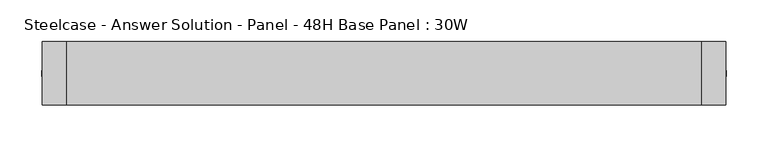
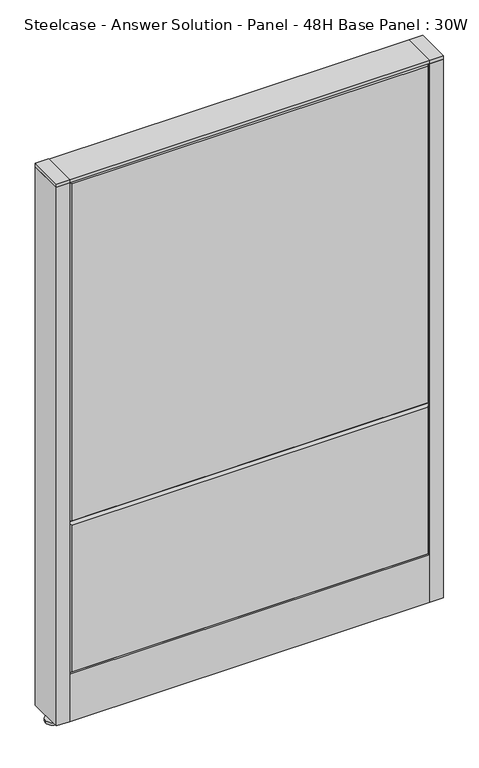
"""IFC4 building model written with IfcOpenShell, lengths in millimetres: furniture geometry, Steelcase - Answer Solution - Panel - 48H Base Panel : 30W."""

from ifc_helpers import new_model, si_unit, point, frame, frame_2d, origin, place, context, project, spatial, polyline, circle_curve, trimmed, segment, composite_curve, outline, extrude, faceted_brep, source, transform, mapped, element, save


def steelcase_answer_solution_panel_48h_base_panel_30w_569df7b0(model_context):
    return source(origin(), model_context, "Body", "SolidModel", [
        extrude(outline(composite_curve([segment(trimmed(circle_curve(frame_2d((395.224, 0.0320214)), 5.08), [point((400.304, 0.0320214))], [point((390.144, 0.0320214))], False, "CARTESIAN"), True, "CONTINUOUS"), segment(trimmed(circle_curve(frame_2d((395.224, 0.0320214)), 5.08), [point((390.144, 0.0320214))], [point((400.304, 0.0320214))], False, "CARTESIAN"), True, "CONTINUOUS")], self_intersect=False)), frame((0.0, 0.0, 5.0799671), z_axis=(0.0, 0.0, 1.0), x_axis=(1.0, 0.0, 0.0)), (0.0, 0.0, 1.0), 10.414),
        extrude(outline(composite_curve([segment(trimmed(circle_curve(frame_2d((395.224, 0.0320214)), 15.24), [point((410.464, 0.0320214))], [point((379.984, 0.0320214))], False, "CARTESIAN"), True, "CONTINUOUS"), segment(trimmed(circle_curve(frame_2d((395.224, 0.0320214)), 15.24), [point((379.984, 0.0320214))], [point((410.464, 0.0320214))], False, "CARTESIAN"), True, "CONTINUOUS")], self_intersect=False)), frame((0.0, 0.0, -3.29e-05), z_axis=(0.0, 0.0, 1.0), x_axis=(1.0, 0.0, 0.0)), (0.0, 0.0, 1.0), 5.08),
        extrude(outline(polyline([(409.575, 38.1320408), (409.575, -38.0679592), (381.0, -38.0679592), (381.0, 38.1320408), (409.575, 38.1320408)])), frame((0.0, 0.0, 1218.2348), z_axis=(0.0, 0.0, 1.0), x_axis=(1.0, 0.0, 0.0)), (0.0, 0.0, 1.0), 7.3151671),
        extrude(outline(polyline([(409.575, 38.1320408), (409.575, -38.0679592), (381.0, -38.0679592), (381.0, 38.1320408), (409.575, 38.1320408)])), frame((0.0, 0.0, 15.4939671), z_axis=(0.0, 0.0, 1.0), x_axis=(1.0, 0.0, 0.0)), (0.0, 0.0, 1.0), 1202.7408329),
        extrude(outline(composite_curve([segment(trimmed(circle_curve(frame_2d((-395.224, 0.0320214)), 5.08), [point((-400.304, 0.0320214))], [point((-390.144, 0.0320214))], False, "CARTESIAN"), True, "CONTINUOUS"), segment(trimmed(circle_curve(frame_2d((-395.224, 0.0320214)), 5.08), [point((-390.144, 0.0320214))], [point((-400.304, 0.0320214))], False, "CARTESIAN"), True, "CONTINUOUS")], self_intersect=False)), frame((0.0, 0.0, 5.0799671), z_axis=(0.0, 0.0, 1.0), x_axis=(1.0, 0.0, 0.0)), (0.0, 0.0, 1.0), 10.414),
        extrude(outline(composite_curve([segment(trimmed(circle_curve(frame_2d((-395.224, 0.0320214)), 15.24), [point((-410.464, 0.0320214))], [point((-379.984, 0.0320214))], False, "CARTESIAN"), True, "CONTINUOUS"), segment(trimmed(circle_curve(frame_2d((-395.224, 0.0320214)), 15.24), [point((-379.984, 0.0320214))], [point((-410.464, 0.0320214))], False, "CARTESIAN"), True, "CONTINUOUS")], self_intersect=False)), frame((0.0, 0.0, -3.29e-05), z_axis=(0.0, 0.0, 1.0), x_axis=(1.0, 0.0, 0.0)), (0.0, 0.0, 1.0), 5.08),
        extrude(outline(polyline([(-409.575, 38.1320408), (-381.0, 38.1320408), (-381.0, -38.0679592), (-409.575, -38.0679592), (-409.575, 38.1320408)])), frame((0.0, 0.0, 1218.2348), z_axis=(0.0, 0.0, 1.0), x_axis=(1.0, 0.0, 0.0)), (0.0, 0.0, 1.0), 7.3151671),
        extrude(outline(polyline([(-409.575, 38.1320408), (-381.0, 38.1320408), (-381.0, -38.0679592), (-409.575, -38.0679592), (-409.575, 38.1320408)])), frame((0.0, 0.0, 15.4939671), z_axis=(0.0, 0.0, 1.0), x_axis=(1.0, 0.0, 0.0)), (0.0, 0.0, 1.0), 1202.7408329),
        faceted_brep([(-376.174, 38.1635011, 1214.374), (376.174, 38.1635011, 1214.374), (376.174, 38.1635011, 462.026), (-376.174, 38.1635011, 462.026), (-381.0, 33.3375011, 1219.2), (-381.0, 33.3375011, 457.2), (381.0, 33.3375011, 457.2), (381.0, 33.3375011, 1219.2)], [[[0, 1, 2, 3]], [[4, 5, 6, 7]], [[4, 7, 1, 0]], [[7, 6, 2, 1]], [[6, 5, 3, 2]], [[5, 4, 0, 3]]]),
        faceted_brep([(-376.174, 38.1635011, 452.374), (376.174, 38.1635011, 452.374), (376.174, 38.1635011, 125.476), (-376.174, 38.1635011, 125.476), (-381.0, 33.3375011, 457.2), (-381.0, 33.3375011, 120.65), (381.0, 33.3375011, 120.65), (381.0, 33.3375011, 457.2)], [[[0, 1, 2, 3]], [[4, 5, 6, 7]], [[4, 7, 1, 0]], [[7, 6, 2, 1]], [[6, 5, 3, 2]], [[5, 4, 0, 3]]]),
        faceted_brep([(376.174, -38.1635011, 1214.374), (-376.174, -38.1635011, 1214.374), (-376.174, -38.1635011, 462.026), (376.174, -38.1635011, 462.026), (381.0, -33.3375011, 1219.2), (381.0, -33.3375011, 457.2), (-381.0, -33.3375011, 457.2), (-381.0, -33.3375011, 1219.2)], [[[0, 1, 2, 3]], [[4, 5, 6, 7]], [[4, 7, 1, 0]], [[7, 6, 2, 1]], [[6, 5, 3, 2]], [[5, 4, 0, 3]]]),
        faceted_brep([(376.174, -38.1635011, 452.374), (-376.174, -38.1635011, 452.374), (-376.174, -38.1635011, 125.476), (376.174, -38.1635011, 125.476), (381.0, -33.3375011, 457.2), (381.0, -33.3375011, 120.65), (-381.0, -33.3375011, 120.65), (-381.0, -33.3375011, 457.2)], [[[0, 1, 2, 3]], [[4, 5, 6, 7]], [[4, 7, 1, 0]], [[7, 6, 2, 1]], [[6, 5, 3, 2]], [[5, 4, 0, 3]]]),
        extrude(outline(polyline([(381.0, 38.1000194), (381.0, -38.1000194), (-381.0, -38.1000194), (-381.0, 38.1000194), (381.0, 38.1000194)])), frame((0.0, 0.0, 1219.2), z_axis=(0.0, 0.0, 1.0), x_axis=(1.0, 0.0, 0.0)), (0.0, 0.0, 1.0), 6.35),
        extrude(outline(polyline([(25.4000011, 119.8575157), (25.4000011, 120.65), (38.1000194, 120.65), (38.1000194, 15.494), (37.3075215, 15.494), (37.3075215, 119.8575157), (25.4000011, 119.8575157)])), frame((-381.0, 0.0, 0.0), z_axis=(1.0, 0.0, 0.0), x_axis=(0.0, 1.0, 0.0)), (0.0, 0.0, 1.0), 762.0),
        extrude(outline(polyline([(-25.4000011, 119.8575157), (-37.3075215, 119.8575157), (-37.3075215, 15.494), (-38.1000194, 15.494), (-38.1000194, 120.65), (-25.4000011, 120.65), (-25.4000011, 119.8575157)])), frame((-381.0, 0.0, 0.0), z_axis=(1.0, 0.0, 0.0), x_axis=(0.0, 1.0, 0.0)), (0.0, 0.0, 1.0), 762.0),
    ])


if __name__ == "__main__":
    model = new_model("IFC4")
    model_context = context("Model", 3, world=origin())
    ifc_project = project(units=[si_unit("LENGTHUNIT", "METRE", prefix="MILLI")], contexts=[model_context])
    site = spatial("IfcSite", under=ifc_project)
    building = spatial("IfcBuilding", under=site)
    placement = place(None, origin())
    steelcase_answer_solution_panel_48h_base_panel_30w_shape = steelcase_answer_solution_panel_48h_base_panel_30w_569df7b0(model_context)
    element("IfcFurniture", 1, ObjectType="Steelcase - Answer Solution - Panel - 48H Base Panel : 30W", at=placement, inside=building, context=model_context, shape_type="MappedRepresentation", body=[
        mapped(steelcase_answer_solution_panel_48h_base_panel_30w_shape, transform((0.0, 0.0, 0.0), x_axis=(1.0, 0.0, 0.0), y_axis=(0.0, 1.0, 0.0), z_axis=(0.0, 0.0, 1.0))),
    ])
    save(model, "model.ifc")
